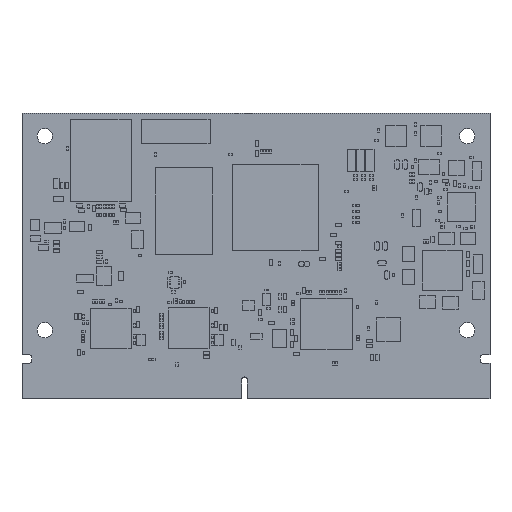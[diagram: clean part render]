
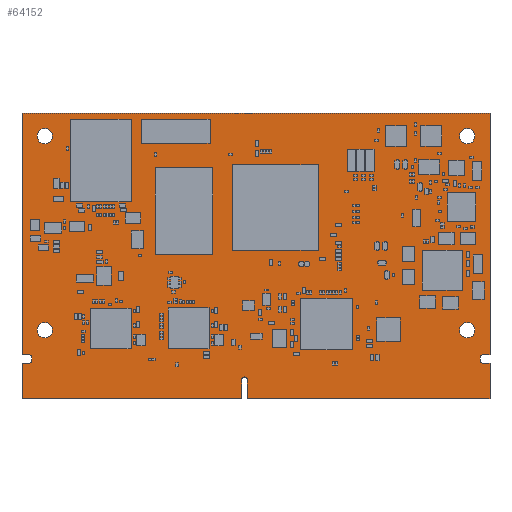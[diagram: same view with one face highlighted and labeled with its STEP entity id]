
A CAD part, top view. The second image highlights one B-rep face of the part: STEP entity #64152.
In plain terms, the highlighted planar face has unit normal (0, 0, 1).
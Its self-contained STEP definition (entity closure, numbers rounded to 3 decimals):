
#5175=FACE_BOUND('',#13283,.T.);
#5176=FACE_BOUND('',#13284,.T.);
#5177=FACE_BOUND('',#13285,.T.);
#5178=FACE_BOUND('',#13286,.T.);
#5195=PLANE('',#75955);
#9235=FACE_OUTER_BOUND('',#13282,.T.);
#13282=EDGE_LOOP('',(#47705,#47706,#47707,#47708,#47709,#47710,#47711,#47712,
#47713,#47714,#47715,#47716,#47717,#47718,#47719,#47720,#47721,#47722,#47723,
#47724));
#13283=EDGE_LOOP('',(#47725));
#13284=EDGE_LOOP('',(#47726));
#13285=EDGE_LOOP('',(#47727));
#13286=EDGE_LOOP('',(#47728));
#17325=LINE('',#100306,#25566);
#17328=LINE('',#100314,#25569);
#17330=LINE('',#100318,#25571);
#17332=LINE('',#100322,#25573);
#17334=LINE('',#100326,#25575);
#17337=LINE('',#100334,#25578);
#17339=LINE('',#100338,#25580);
#17341=LINE('',#100342,#25582);
#17343=LINE('',#100346,#25584);
#17346=LINE('',#100354,#25587);
#17349=LINE('',#100362,#25590);
#17351=LINE('',#100366,#25592);
#17353=LINE('',#100370,#25594);
#17355=LINE('',#100374,#25596);
#17357=LINE('',#100377,#25598);
#25566=VECTOR('',#81337,10.);
#25569=VECTOR('',#81346,10.);
#25571=VECTOR('',#81350,10.);
#25573=VECTOR('',#81354,10.);
#25575=VECTOR('',#81358,10.);
#25578=VECTOR('',#81367,10.);
#25580=VECTOR('',#81371,10.);
#25582=VECTOR('',#81375,10.);
#25584=VECTOR('',#81379,10.);
#25587=VECTOR('',#81388,10.);
#25590=VECTOR('',#81397,10.);
#25592=VECTOR('',#81401,10.);
#25594=VECTOR('',#81405,10.);
#25596=VECTOR('',#81409,10.);
#25598=VECTOR('',#81413,10.);
#33786=CIRCLE('',#75913,1.35);
#33788=CIRCLE('',#75916,1.35);
#33790=CIRCLE('',#75919,1.35);
#33792=CIRCLE('',#75922,1.35);
#33799=CIRCLE('',#75931,0.5);
#33800=CIRCLE('',#75934,0.5);
#33801=CIRCLE('',#75940,0.5);
#33802=CIRCLE('',#75946,0.5);
#33803=CIRCLE('',#75949,0.5);
#33810=VERTEX_POINT('',#100234);
#33812=VERTEX_POINT('',#100240);
#33814=VERTEX_POINT('',#100246);
#33816=VERTEX_POINT('',#100252);
#33838=VERTEX_POINT('',#100299);
#33839=VERTEX_POINT('',#100301);
#33840=VERTEX_POINT('',#100305);
#33841=VERTEX_POINT('',#100309);
#33842=VERTEX_POINT('',#100313);
#33843=VERTEX_POINT('',#100317);
#33844=VERTEX_POINT('',#100321);
#33845=VERTEX_POINT('',#100325);
#33846=VERTEX_POINT('',#100329);
#33847=VERTEX_POINT('',#100333);
#33848=VERTEX_POINT('',#100337);
#33849=VERTEX_POINT('',#100341);
#33850=VERTEX_POINT('',#100345);
#33851=VERTEX_POINT('',#100349);
#33852=VERTEX_POINT('',#100353);
#33853=VERTEX_POINT('',#100357);
#33854=VERTEX_POINT('',#100361);
#33855=VERTEX_POINT('',#100365);
#33856=VERTEX_POINT('',#100369);
#33857=VERTEX_POINT('',#100373);
#39320=EDGE_CURVE('',#33810,#33810,#33786,.T.);
#39323=EDGE_CURVE('',#33812,#33812,#33788,.T.);
#39326=EDGE_CURVE('',#33814,#33814,#33790,.T.);
#39329=EDGE_CURVE('',#33816,#33816,#33792,.T.);
#39353=EDGE_CURVE('',#33839,#33838,#33799,.T.);
#39355=EDGE_CURVE('',#33840,#33839,#17325,.T.);
#39357=EDGE_CURVE('',#33841,#33840,#33800,.T.);
#39359=EDGE_CURVE('',#33842,#33841,#17328,.T.);
#39361=EDGE_CURVE('',#33843,#33842,#17330,.T.);
#39363=EDGE_CURVE('',#33844,#33843,#17332,.T.);
#39365=EDGE_CURVE('',#33845,#33844,#17334,.T.);
#39367=EDGE_CURVE('',#33846,#33845,#33801,.T.);
#39369=EDGE_CURVE('',#33847,#33846,#17337,.T.);
#39371=EDGE_CURVE('',#33848,#33847,#17339,.T.);
#39373=EDGE_CURVE('',#33849,#33848,#17341,.T.);
#39375=EDGE_CURVE('',#33850,#33849,#17343,.T.);
#39377=EDGE_CURVE('',#33851,#33850,#33802,.T.);
#39379=EDGE_CURVE('',#33852,#33851,#17346,.T.);
#39381=EDGE_CURVE('',#33853,#33852,#33803,.T.);
#39383=EDGE_CURVE('',#33854,#33853,#17349,.T.);
#39385=EDGE_CURVE('',#33855,#33854,#17351,.T.);
#39387=EDGE_CURVE('',#33856,#33855,#17353,.T.);
#39389=EDGE_CURVE('',#33857,#33856,#17355,.T.);
#39391=EDGE_CURVE('',#33838,#33857,#17357,.T.);
#47705=ORIENTED_EDGE('',*,*,#39391,.T.);
#47706=ORIENTED_EDGE('',*,*,#39389,.T.);
#47707=ORIENTED_EDGE('',*,*,#39387,.T.);
#47708=ORIENTED_EDGE('',*,*,#39385,.T.);
#47709=ORIENTED_EDGE('',*,*,#39383,.T.);
#47710=ORIENTED_EDGE('',*,*,#39381,.T.);
#47711=ORIENTED_EDGE('',*,*,#39379,.T.);
#47712=ORIENTED_EDGE('',*,*,#39377,.T.);
#47713=ORIENTED_EDGE('',*,*,#39375,.T.);
#47714=ORIENTED_EDGE('',*,*,#39373,.T.);
#47715=ORIENTED_EDGE('',*,*,#39371,.T.);
#47716=ORIENTED_EDGE('',*,*,#39369,.T.);
#47717=ORIENTED_EDGE('',*,*,#39367,.T.);
#47718=ORIENTED_EDGE('',*,*,#39365,.T.);
#47719=ORIENTED_EDGE('',*,*,#39363,.T.);
#47720=ORIENTED_EDGE('',*,*,#39361,.T.);
#47721=ORIENTED_EDGE('',*,*,#39359,.T.);
#47722=ORIENTED_EDGE('',*,*,#39357,.T.);
#47723=ORIENTED_EDGE('',*,*,#39355,.T.);
#47724=ORIENTED_EDGE('',*,*,#39353,.T.);
#47725=ORIENTED_EDGE('',*,*,#39320,.T.);
#47726=ORIENTED_EDGE('',*,*,#39323,.T.);
#47727=ORIENTED_EDGE('',*,*,#39326,.T.);
#47728=ORIENTED_EDGE('',*,*,#39329,.T.);
#64152=ADVANCED_FACE('',(#9235,#5175,#5176,#5177,#5178),#5195,.T.);
#75913=AXIS2_PLACEMENT_3D('',#100235,#81276,#81277);
#75916=AXIS2_PLACEMENT_3D('',#100241,#81283,#81284);
#75919=AXIS2_PLACEMENT_3D('',#100247,#81290,#81291);
#75922=AXIS2_PLACEMENT_3D('',#100253,#81297,#81298);
#75931=AXIS2_PLACEMENT_3D('',#100302,#81332,#81333);
#75934=AXIS2_PLACEMENT_3D('',#100310,#81341,#81342);
#75940=AXIS2_PLACEMENT_3D('',#100330,#81362,#81363);
#75946=AXIS2_PLACEMENT_3D('',#100350,#81383,#81384);
#75949=AXIS2_PLACEMENT_3D('',#100358,#81392,#81393);
#75955=AXIS2_PLACEMENT_3D('',#100378,#81414,#81415);
#81276=DIRECTION('center_axis',(0.,0.,-1.));
#81277=DIRECTION('ref_axis',(1.,0.,0.));
#81283=DIRECTION('center_axis',(0.,0.,-1.));
#81284=DIRECTION('ref_axis',(1.,0.,0.));
#81290=DIRECTION('center_axis',(0.,0.,-1.));
#81291=DIRECTION('ref_axis',(1.,0.,0.));
#81297=DIRECTION('center_axis',(0.,0.,-1.));
#81298=DIRECTION('ref_axis',(1.,0.,0.));
#81332=DIRECTION('center_axis',(0.,0.,-1.));
#81333=DIRECTION('ref_axis',(0.,1.,0.));
#81337=DIRECTION('',(0.,1.,0.));
#81341=DIRECTION('center_axis',(0.,0.,-1.));
#81342=DIRECTION('ref_axis',(-1.,0.,0.));
#81346=DIRECTION('',(-1.,0.,0.));
#81350=DIRECTION('',(0.,1.,0.));
#81354=DIRECTION('',(1.,0.,0.));
#81358=DIRECTION('',(0.,-1.,0.));
#81362=DIRECTION('center_axis',(0.,0.,-1.));
#81363=DIRECTION('ref_axis',(1.,0.,0.));
#81367=DIRECTION('',(0.,1.,0.));
#81371=DIRECTION('',(1.,0.,0.));
#81375=DIRECTION('',(0.,-1.,0.));
#81379=DIRECTION('',(-1.,0.,0.));
#81383=DIRECTION('center_axis',(0.,0.,-1.));
#81384=DIRECTION('ref_axis',(0.,-1.,0.));
#81388=DIRECTION('',(0.,-1.,0.));
#81392=DIRECTION('center_axis',(0.,0.,-1.));
#81393=DIRECTION('ref_axis',(1.,0.,0.));
#81397=DIRECTION('',(1.,0.,0.));
#81401=DIRECTION('',(0.,-1.,0.));
#81405=DIRECTION('',(-1.,0.,0.));
#81409=DIRECTION('',(0.,1.,0.));
#81413=DIRECTION('',(1.,0.,0.));
#81414=DIRECTION('center_axis',(0.,0.,1.));
#81415=DIRECTION('ref_axis',(1.,0.,0.));
#100234=CARTESIAN_POINT('',(76.65,-38.,0.598));
#100235=CARTESIAN_POINT('Origin',(78.,-38.,0.598));
#100240=CARTESIAN_POINT('',(2.65,-38.,0.598));
#100241=CARTESIAN_POINT('Origin',(4.,-38.,0.598));
#100246=CARTESIAN_POINT('',(76.65,-4.,0.598));
#100247=CARTESIAN_POINT('Origin',(78.,-4.,0.598));
#100252=CARTESIAN_POINT('',(2.65,-4.,0.598));
#100253=CARTESIAN_POINT('Origin',(4.,-4.,0.598));
#100299=CARTESIAN_POINT('',(80.8,-42.3,0.598));
#100301=CARTESIAN_POINT('',(80.3,-42.8,0.598));
#100302=CARTESIAN_POINT('Origin',(80.8,-42.8,0.598));
#100305=CARTESIAN_POINT('',(80.3,-43.3,0.598));
#100306=CARTESIAN_POINT('',(80.3,-43.3,0.598));
#100309=CARTESIAN_POINT('',(80.8,-43.8,0.598));
#100310=CARTESIAN_POINT('Origin',(80.8,-43.3,0.598));
#100313=CARTESIAN_POINT('',(82.,-43.8,0.598));
#100314=CARTESIAN_POINT('',(82.,-43.8,0.598));
#100317=CARTESIAN_POINT('',(82.,-50.,0.598));
#100318=CARTESIAN_POINT('',(82.,-50.,0.598));
#100321=CARTESIAN_POINT('',(39.5,-50.,0.598));
#100322=CARTESIAN_POINT('',(39.5,-50.,0.598));
#100325=CARTESIAN_POINT('',(39.5,-46.7,0.598));
#100326=CARTESIAN_POINT('',(39.5,-46.7,0.598));
#100329=CARTESIAN_POINT('',(38.5,-46.7,0.598));
#100330=CARTESIAN_POINT('Origin',(39.,-46.7,0.598));
#100333=CARTESIAN_POINT('',(38.5,-50.,0.598));
#100334=CARTESIAN_POINT('',(38.5,-50.,0.598));
#100337=CARTESIAN_POINT('',(0.,-50.,0.598));
#100338=CARTESIAN_POINT('',(0.,-50.,0.598));
#100341=CARTESIAN_POINT('',(0.,-43.8,0.598));
#100342=CARTESIAN_POINT('',(0.,-43.8,0.598));
#100345=CARTESIAN_POINT('',(1.2,-43.8,0.598));
#100346=CARTESIAN_POINT('',(1.2,-43.8,0.598));
#100349=CARTESIAN_POINT('',(1.7,-43.3,0.598));
#100350=CARTESIAN_POINT('Origin',(1.2,-43.3,0.598));
#100353=CARTESIAN_POINT('',(1.7,-42.8,0.598));
#100354=CARTESIAN_POINT('',(1.7,-42.8,0.598));
#100357=CARTESIAN_POINT('',(1.2,-42.3,0.598));
#100358=CARTESIAN_POINT('Origin',(1.2,-42.8,0.598));
#100361=CARTESIAN_POINT('',(0.,-42.3,0.598));
#100362=CARTESIAN_POINT('',(0.,-42.3,0.598));
#100365=CARTESIAN_POINT('',(0.,0.,0.598));
#100366=CARTESIAN_POINT('',(0.,0.,0.598));
#100369=CARTESIAN_POINT('',(82.,0.,0.598));
#100370=CARTESIAN_POINT('',(82.,0.,0.598));
#100373=CARTESIAN_POINT('',(82.,-42.3,0.598));
#100374=CARTESIAN_POINT('',(82.,-42.3,0.598));
#100377=CARTESIAN_POINT('',(80.8,-42.3,0.598));
#100378=CARTESIAN_POINT('Origin',(41.,-25.,0.598));
